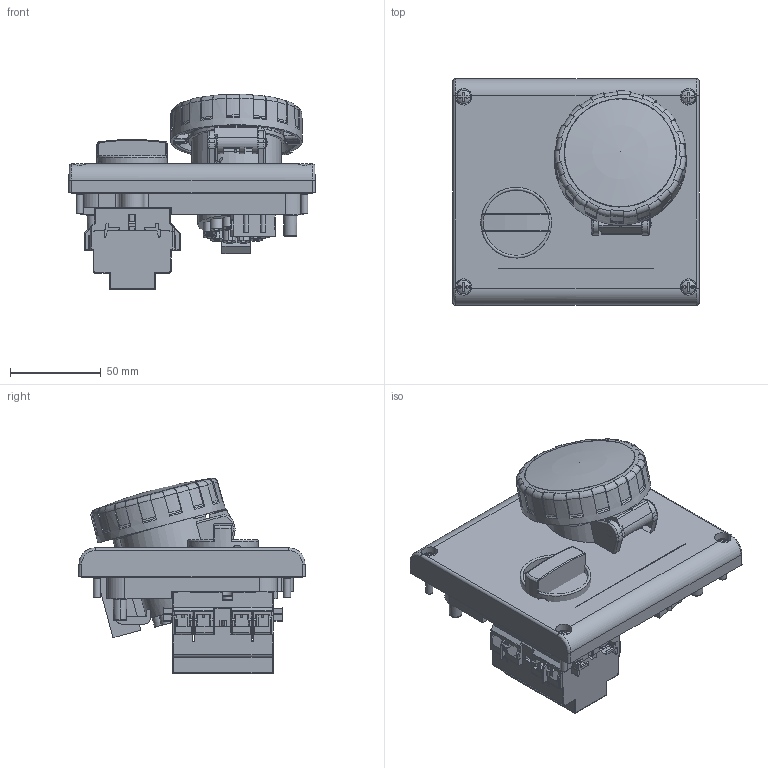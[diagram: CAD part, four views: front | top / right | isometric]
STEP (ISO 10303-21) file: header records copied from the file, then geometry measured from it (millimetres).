
FILE_DESCRIPTION(/* description */ (''),/* implementation_level */ '2;1');
FILE_NAME(/* name */ '4002994.stp',/* time_stamp */ '2016-09-22T13:28:11+02:00',/* author */ (''),/* organization */ (''),/* preprocessor_version */ 'ST-DEVELOPER v16',/* originating_system */ 'SIEMENS PLM Software NX 11.0',/* authorisation */ '');
FILE_SCHEMA (('AUTOMOTIVE_DESIGN { 1 0 10303 214 3 1 1 1 }'));
Length unit declared in the file: millimetre
Products named in the file (1): 4002994_LINKEDEXT_jt
Bounding box: 136 x 125 x 107.94 mm (x, y, z)
Surface area: 139897.3 mm2 (no closed solid volume)
Topology: 0 solids, 129 shells, 878 faces, 3709 edges, 2849 vertices
Faces by surface type: plane 372, cylinder 283, torus 77, bspline 76, cone 52, sphere 18
Full cylindrical faces by diameter (mm): 1 x3, 2.3 x1, 2.5 x2, 3.2 x10, 3.5 x2, 3.6 x2, 4 x7, 4.1 x1, 4.4 x1, 5.5 x2, 5.7 x2, 7 x5, 9 x4, 10 x1, 24 x1, 39 x1
Entity records: 50472 total; most frequent: CARTESIAN_POINT 16395, DIRECTION 5881, ORIENTED_EDGE 5053, EDGE_CURVE 3584, VERTEX_POINT 2817, AXIS2_PLACEMENT_3D 1982, LINE 1917, VECTOR 1917
